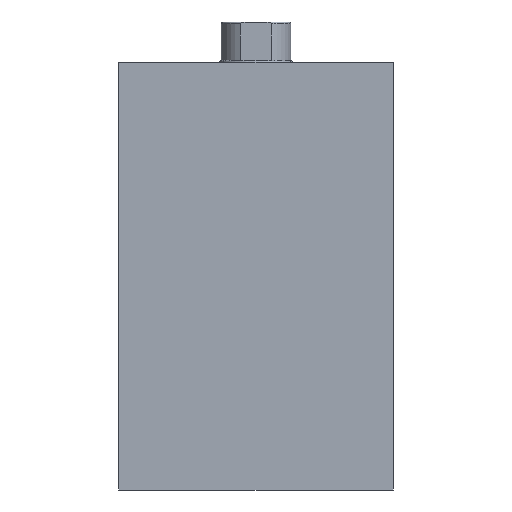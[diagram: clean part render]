
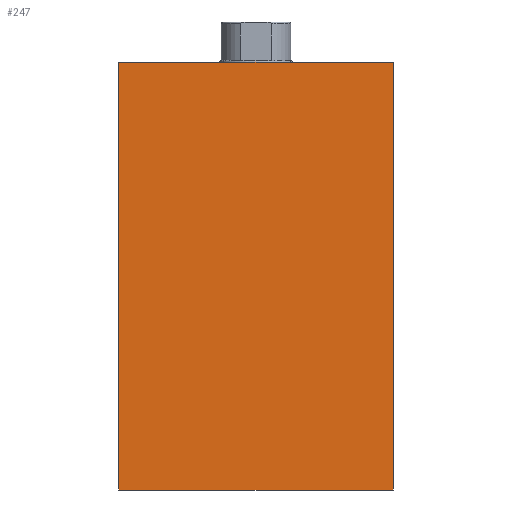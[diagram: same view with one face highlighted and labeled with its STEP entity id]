
A CAD part, left-side view. The second image highlights one B-rep face of the part: STEP entity #247.
In plain terms, the highlighted planar face has unit normal (-1, 0, 0) as drawn and (0, 0, -1) by its records, which use the part's own axes.
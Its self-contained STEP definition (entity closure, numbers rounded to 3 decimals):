
#247 = ADVANCED_FACE( '', ( #338 ), #339, .F. );
#338 = FACE_OUTER_BOUND( '', #554, .T. );
#339 = PLANE( '', #555 );
#554 = EDGE_LOOP( '', ( #789, #790, #791, #792 ) );
#555 = AXIS2_PLACEMENT_3D( '', #793, #794, #795 );
#789 = ORIENTED_EDGE( '', *, *, #1166, .T. );
#790 = ORIENTED_EDGE( '', *, *, #1183, .F. );
#791 = ORIENTED_EDGE( '', *, *, #1178, .F. );
#792 = ORIENTED_EDGE( '', *, *, #1182, .T. );
#793 = CARTESIAN_POINT( '', ( 117., -37.5, -27.5 ) );
#794 = DIRECTION( '', ( 0., 0., 1. ) );
#795 = DIRECTION( '', ( 1., 0., 0. ) );
#1166 = EDGE_CURVE( '', #1267, #1265, #1268, .T. );
#1178 = EDGE_CURVE( '', #1287, #1289, #1290, .T. );
#1182 = EDGE_CURVE( '', #1287, #1267, #1296, .T. );
#1183 = EDGE_CURVE( '', #1289, #1265, #1297, .T. );
#1265 = VERTEX_POINT( '', #1510 );
#1267 = VERTEX_POINT( '', #1513 );
#1268 = LINE( '', #1514, #1515 );
#1287 = VERTEX_POINT( '', #1706 );
#1289 = VERTEX_POINT( '', #1709 );
#1290 = LINE( '', #1710, #1711 );
#1296 = B_SPLINE_CURVE_WITH_KNOTS( '', 1, ( #1784, #1785 ), .UNSPECIFIED., .F., .F., ( 2, 2 ), ( 0., 1. ), .UNSPECIFIED. );
#1297 = B_SPLINE_CURVE_WITH_KNOTS( '', 1, ( #1786, #1787 ), .UNSPECIFIED., .F., .F., ( 2, 2 ), ( 0., 1. ), .UNSPECIFIED. );
#1510 = CARTESIAN_POINT( '', ( 0., 37.5, -27.5 ) );
#1513 = CARTESIAN_POINT( '', ( 0., -37.5, -27.5 ) );
#1514 = CARTESIAN_POINT( '', ( 0., -37.5, -27.5 ) );
#1515 = VECTOR( '', #3890, 1000. );
#1706 = CARTESIAN_POINT( '', ( 117., -37.5, -27.5 ) );
#1709 = CARTESIAN_POINT( '', ( 117., 37.5, -27.5 ) );
#1710 = CARTESIAN_POINT( '', ( 117., -37.5, -27.5 ) );
#1711 = VECTOR( '', #3897, 1000. );
#1784 = CARTESIAN_POINT( '', ( 117., -37.5, -27.5 ) );
#1785 = CARTESIAN_POINT( '', ( 0., -37.5, -27.5 ) );
#1786 = CARTESIAN_POINT( '', ( 117., 37.5, -27.5 ) );
#1787 = CARTESIAN_POINT( '', ( 0., 37.5, -27.5 ) );
#3890 = DIRECTION( '', ( 0., 1., 0. ) );
#3897 = DIRECTION( '', ( 0., 1., 0. ) );
